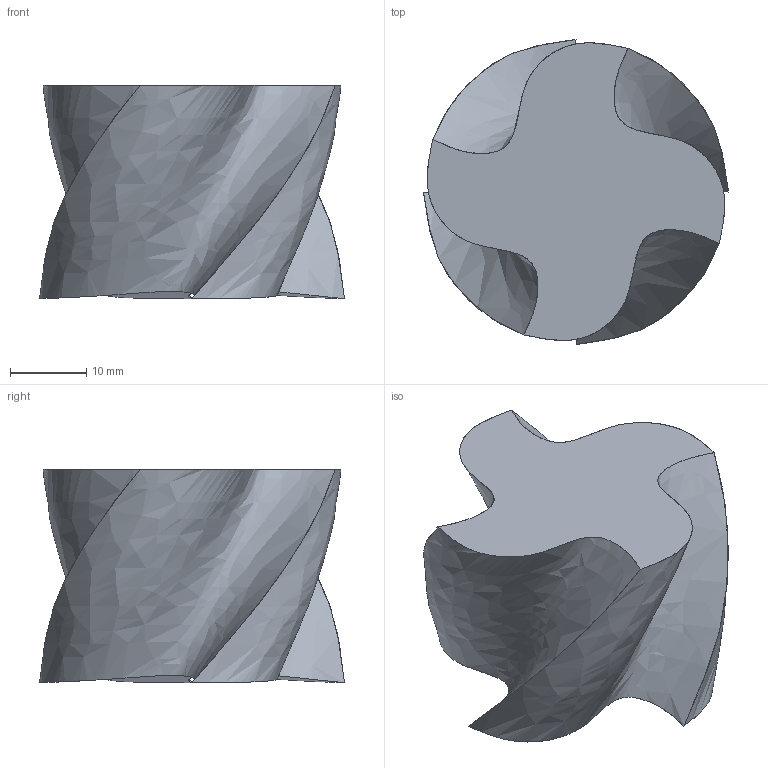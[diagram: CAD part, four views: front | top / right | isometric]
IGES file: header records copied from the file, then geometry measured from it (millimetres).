
Start section: SolidWorks IGES file using analytic representation for surfaces
Global section: file name: J:\Scolaire\BAC Pro\Epreuves professionnelles\E2\CD\Dossier Examinateurs\Dessins CN 5 axes\IGES\FRAISE 2T ARS 40 MM.IGS; native system: SolidWorks 2005 by SolidWorks Corporation; preprocessor: SolidWorks 2005 by SolidWorks Corporation; author: Famille Couzi; date: 091204.123531; units: millimetre
Bounding box: 40 x 40 x 28 mm (x, y, z)
Surface area: 6001.6 mm2 (no closed solid volume)
Topology: 0 solids, 0 shells, 11 faces, 508 edges, 508 vertices
Faces by surface type: bspline 7, revolution 4
